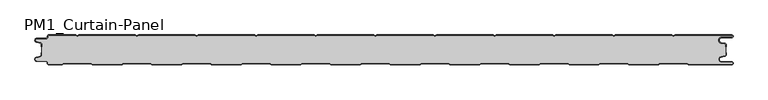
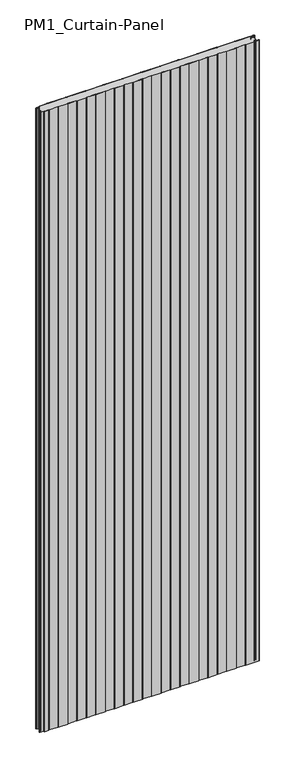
"""IFC4 building model written with IfcOpenShell, lengths in millimetres: plate geometry, PM1_Curtain-Panel : ACH_PM1_Stone-wool-Panel_50M."""

from ifc_helpers import new_model, si_unit, point, frame_2d, origin, origin_with_axes, place, context, project, spatial, polyline, circle_curve, trimmed, segment, composite_curve, outline, extrude, source, transform, mapped, element, save


def pm1_curtain_panel_b305cc81(model_context):
    return source(origin(), model_context, "Body", "SweptSolid", [
        extrude(outline(composite_curve([segment(trimmed(circle_curve(frame_2d((-577.0, -15.878557)), 2.0), [point((-575.0, -15.878557))], [point((-576.5500978, -13.9298169))], True, "CARTESIAN"), True, "CONTINUOUS"), segment(polyline([(-576.5500978, -13.9298169), (-582.7098239, -12.507732)]), True, "CONTINUOUS"), segment(trimmed(circle_curve(frame_2d((-581.9, -9.0)), 3.6), [point((-582.7098239, -12.507732))], [point((-581.9, -5.4))], False, "CARTESIAN"), True, "CONTINUOUS"), segment(polyline([(-581.9, -5.4), (-566.4, -5.4)]), True, "CONTINUOUS"), segment(trimmed(circle_curve(frame_2d((-566.4, -3.4)), 2.0), [point((-566.4, -5.4))], [point((-564.4, -3.4))], True, "CARTESIAN"), True, "CONTINUOUS"), segment(polyline([(-564.4, -3.4), (-564.4, -2.0)]), True, "CONTINUOUS"), segment(trimmed(circle_curve(frame_2d((-562.4, -2.0)), 2.0), [point((-564.4, -2.0))], [point((-562.4, 0.0))], False, "CARTESIAN"), True, "CONTINUOUS"), segment(polyline([(-562.4, 0.0), (-517.0999995, 0.0), (-514.4, -1.5588455), (-511.7000005, 0.0), (-417.0999995, 0.0), (-414.4, -1.5588455), (-411.7000005, 0.0), (-317.0999995, 0.0), (-314.4, -1.5588455), (-311.7000005, 0.0), (-217.0999995, 0.0), (-214.4, -1.5588455), (-211.7000005, 0.0), (-117.0999995, 0.0), (-114.4, -1.5588455), (-111.7000005, 0.0), (-17.0999995, 0.0), (-14.4, -1.5588455), (-11.7000005, 0.0), (82.9000005, 0.0), (85.6, -1.5588455), (88.2999995, 0.0), (182.9000005, 0.0), (185.6, -1.5588455), (188.2999995, 0.0), (282.9000005, 0.0), (285.6, -1.5588455), (288.2999995, 0.0), (382.9000005, 0.0), (385.6, -1.5588455), (388.2999995, 0.0), (482.9000005, 0.0), (485.6, -1.5588455), (488.2999995, 0.0), (583.1, 0.0)]), True, "CONTINUOUS"), segment(trimmed(circle_curve(frame_2d((583.1, -2.5)), 2.5), [point((583.1, 0.0))], [point((583.1, -5.0))], False, "CARTESIAN"), True, "CONTINUOUS"), segment(polyline([(583.1, -5.0), (566.1, -5.0)]), True, "CONTINUOUS"), segment(trimmed(circle_curve(frame_2d((566.1, -9.0)), 4.0), [point((566.1, -5.0))], [point((565.405407, -12.939231))], True, "CARTESIAN"), True, "CONTINUOUS"), segment(polyline([(565.405407, -12.939231), (571.8514855, -14.0758491)]), True, "CONTINUOUS"), segment(trimmed(circle_curve(frame_2d((571.4, -16.6363492)), 2.6), [point((571.8514855, -14.0758491))], [point((574.0, -16.6363492))], False, "CARTESIAN"), True, "CONTINUOUS"), segment(polyline([(574.0, -16.6363492), (574.0, -20.0), (573.2, -20.0), (573.2, -16.6363492)]), True, "CONTINUOUS"), segment(trimmed(circle_curve(frame_2d((571.4, -16.6363492)), 1.8), [point((573.2, -16.6363492))], [point((571.7125669, -14.8636953))], True, "CARTESIAN"), True, "CONTINUOUS"), segment(polyline([(571.7125669, -14.8636953), (565.2664884, -13.7270772)]), True, "CONTINUOUS"), segment(trimmed(circle_curve(frame_2d((566.1, -9.0)), 4.8), [point((565.2664884, -13.7270772))], [point((566.1, -4.2))], False, "CARTESIAN"), True, "CONTINUOUS"), segment(polyline([(566.1, -4.2), (583.1, -4.2)]), True, "CONTINUOUS"), segment(trimmed(circle_curve(frame_2d((583.1, -2.5)), 1.7), [point((583.1, -4.2))], [point((583.1, -0.8))], True, "CARTESIAN"), True, "CONTINUOUS"), segment(polyline([(583.1, -0.8), (488.5143588, -0.8), (485.6, -2.482606), (482.6856412, -0.8), (388.5143588, -0.8), (385.6, -2.482606), (382.6856412, -0.8), (288.5143588, -0.8), (285.6, -2.482606), (282.6856412, -0.8), (188.5143588, -0.8), (185.6, -2.482606), (182.6856412, -0.8), (88.5143588, -0.8), (85.6, -2.482606), (82.6856412, -0.8), (-11.4856412, -0.8), (-14.4, -2.482606), (-17.3143588, -0.8), (-111.4856412, -0.8), (-114.4, -2.482606), (-117.3143588, -0.8), (-211.4856412, -0.8), (-214.4, -2.482606), (-217.3143588, -0.8), (-311.4856412, -0.8), (-314.4, -2.482606), (-317.3143588, -0.8), (-411.4856412, -0.8), (-414.4, -2.482606), (-417.3143588, -0.8), (-511.4856412, -0.8), (-514.4, -2.482606), (-517.3143588, -0.8), (-562.4, -0.8)]), True, "CONTINUOUS"), segment(trimmed(circle_curve(frame_2d((-562.4, -2.0)), 1.2), [point((-562.4, -0.8))], [point((-563.6, -2.0))], True, "CARTESIAN"), True, "CONTINUOUS"), segment(polyline([(-563.6, -2.0), (-563.6, -3.4)]), True, "CONTINUOUS"), segment(trimmed(circle_curve(frame_2d((-566.4, -3.4)), 2.8), [point((-563.6, -3.4))], [point((-566.4, -6.2))], False, "CARTESIAN"), True, "CONTINUOUS"), segment(polyline([(-566.4, -6.2), (-581.9, -6.2)]), True, "CONTINUOUS"), segment(trimmed(circle_curve(frame_2d((-581.9, -9.0)), 2.8), [point((-581.9, -6.2))], [point((-582.529863, -11.7282362))], True, "CARTESIAN"), True, "CONTINUOUS"), segment(polyline([(-582.529863, -11.7282362), (-576.370137, -13.150321)]), True, "CONTINUOUS"), segment(trimmed(circle_curve(frame_2d((-577.0, -15.878557)), 2.8), [point((-576.370137, -13.150321))], [point((-574.2, -15.878557))], False, "CARTESIAN"), True, "CONTINUOUS"), segment(polyline([(-574.2, -15.878557), (-574.2, -20.0), (-575.0, -20.0), (-575.0, -15.878557)]), True, "CONTINUOUS")], self_intersect=False)), origin_with_axes(), (0.0, 0.0, 1.0), 3500.0),
        extrude(outline(composite_curve([segment(polyline([(-574.2, -34.121443), (-574.2, -15.8785573)]), True, "CONTINUOUS"), segment(trimmed(circle_curve(frame_2d((-577.0, -15.8785573)), 2.8), [point((-574.2, -15.8785573))], [point((-576.370137, -13.1503212))], True, "CARTESIAN"), True, "CONTINUOUS"), segment(polyline([(-576.370137, -13.1503212), (-582.5298631, -11.7282362)]), True, "CONTINUOUS"), segment(trimmed(circle_curve(frame_2d((-581.9, -9.0)), 2.8), [point((-582.5298631, -11.7282362))], [point((-581.9, -6.2))], False, "CARTESIAN"), True, "CONTINUOUS"), segment(polyline([(-581.9, -6.2), (-566.4000001, -6.2)]), True, "CONTINUOUS"), segment(trimmed(circle_curve(frame_2d((-566.4000001, -3.4)), 2.8), [point((-566.4000001, -6.2))], [point((-563.6000001, -3.4))], True, "CARTESIAN"), True, "CONTINUOUS"), segment(polyline([(-563.6000001, -3.4), (-563.6000001, -2.0)]), True, "CONTINUOUS"), segment(trimmed(circle_curve(frame_2d((-562.4000001, -2.0)), 1.2), [point((-563.6000001, -2.0))], [point((-562.4000001, -0.8))], False, "CARTESIAN"), True, "CONTINUOUS"), segment(polyline([(-562.4000001, -0.8), (-517.3143589, -0.8), (-514.4000001, -2.482606), (-511.4856412, -0.8), (-417.3143589, -0.8), (-414.4000001, -2.482606), (-411.4856412, -0.8), (-317.3143589, -0.8), (-314.4000001, -2.482606), (-311.4856412, -0.8), (-217.3143589, -0.8), (-214.4000001, -2.482606), (-211.4856412, -0.8), (-117.3143589, -0.8), (-114.4000001, -2.482606), (-111.4856412, -0.8), (-17.3143589, -0.8), (-14.4000001, -2.482606), (-11.4856412, -0.8), (82.6856411, -0.8), (85.5999999, -2.482606), (88.5143588, -0.8), (182.6856411, -0.8), (185.5999999, -2.482606), (188.5143588, -0.8), (282.6856411, -0.8), (285.5999999, -2.482606), (288.5143588, -0.8), (382.6856411, -0.8), (385.5999999, -2.482606), (388.5143588, -0.8), (482.6856411, -0.8), (485.6, -2.482606), (488.5143588, -0.8), (583.1, -0.8)]), True, "CONTINUOUS"), segment(trimmed(circle_curve(frame_2d((583.1, -2.5)), 1.7), [point((583.1, -0.8))], [point((583.1, -4.2))], False, "CARTESIAN"), True, "CONTINUOUS"), segment(polyline([(583.1, -4.2), (566.1, -4.2)]), True, "CONTINUOUS"), segment(trimmed(circle_curve(frame_2d((566.1, -9.0)), 4.8), [point((566.1, -4.2))], [point((565.2664883, -13.7270771))], True, "CARTESIAN"), True, "CONTINUOUS"), segment(polyline([(565.2664883, -13.7270771), (571.7125668, -14.8636953)]), True, "CONTINUOUS"), segment(trimmed(circle_curve(frame_2d((571.4, -16.6363492)), 1.8), [point((571.7125668, -14.8636953))], [point((573.2, -16.6363492))], False, "CARTESIAN"), True, "CONTINUOUS"), segment(polyline([(573.2, -16.6363492), (573.2, -33.363652)]), True, "CONTINUOUS"), segment(trimmed(circle_curve(frame_2d((571.4, -33.363652)), 1.8), [point((573.2, -33.363652))], [point((571.7125666, -35.136306))], False, "CARTESIAN"), True, "CONTINUOUS"), segment(polyline([(571.7125666, -35.136306), (565.266489, -36.2729231)]), True, "CONTINUOUS"), segment(trimmed(circle_curve(frame_2d((566.1, -41.0000002)), 4.7999999), [point((565.266489, -36.2729231))], [point((566.1, -45.8000001))], True, "CARTESIAN"), True, "CONTINUOUS"), segment(polyline([(566.1, -45.8000001), (583.1, -45.8000001)]), True, "CONTINUOUS"), segment(trimmed(circle_curve(frame_2d((583.1, -47.5)), 1.7), [point((583.1, -45.8000001))], [point((583.1, -49.2))], False, "CARTESIAN"), True, "CONTINUOUS"), segment(polyline([(583.1, -49.2), (510.8105122, -49.2), (508.2124346, -47.7), (462.9837184, -47.7), (460.3856408, -49.2), (410.8105122, -49.2), (408.2124346, -47.7), (362.9837184, -47.7), (360.3856408, -49.2), (310.8105122, -49.2), (308.2124346, -47.7), (262.9837184, -47.7), (260.3856408, -49.2), (210.8105122, -49.2), (208.2124346, -47.7), (162.9837184, -47.7), (160.3856408, -49.2), (110.8105122, -49.2), (108.2124346, -47.7), (62.9837184, -47.7), (60.3856408, -49.2), (10.8105122, -49.2), (8.2124346, -47.7), (-37.0162816, -47.7), (-39.6143592, -49.2), (-89.1894878, -49.2), (-91.7875654, -47.7), (-137.0162816, -47.7), (-139.6143592, -49.2), (-189.1894878, -49.2), (-191.7875654, -47.7), (-237.0162816, -47.7), (-239.6143592, -49.2), (-289.1894878, -49.2), (-291.7875654, -47.7), (-337.0162816, -47.7), (-339.6143592, -49.2), (-389.1894878, -49.2), (-391.7875654, -47.7), (-437.0162816, -47.7), (-439.6143592, -49.2), (-489.1894878, -49.2), (-491.7875654, -47.7), (-537.0162816, -47.7), (-539.6143592, -49.2), (-562.4, -49.2)]), True, "CONTINUOUS"), segment(trimmed(circle_curve(frame_2d((-562.4, -48.0)), 1.2), [point((-562.4, -49.2))], [point((-563.6, -48.0))], False, "CARTESIAN"), True, "CONTINUOUS"), segment(polyline([(-563.6, -48.0), (-563.6, -46.5999998)]), True, "CONTINUOUS"), segment(trimmed(circle_curve(frame_2d((-566.4, -46.5999998)), 2.8), [point((-563.6, -46.5999998))], [point((-566.4, -43.7999998))], True, "CARTESIAN"), True, "CONTINUOUS"), segment(polyline([(-566.4, -43.7999998), (-581.9, -43.7999998)]), True, "CONTINUOUS"), segment(trimmed(circle_curve(frame_2d((-581.9, -41.0)), 2.7999998), [point((-581.9, -43.7999998))], [point((-582.529863, -38.271764))], False, "CARTESIAN"), True, "CONTINUOUS"), segment(polyline([(-582.529863, -38.271764), (-576.370137, -36.8496792)]), True, "CONTINUOUS"), segment(trimmed(circle_curve(frame_2d((-577.0, -34.121443)), 2.8), [point((-576.370137, -36.8496792))], [point((-574.2, -34.121443))], True, "CARTESIAN"), True, "CONTINUOUS")], self_intersect=False)), origin_with_axes(), (0.0, 0.0, 1.0), 3500.0),
        extrude(outline(composite_curve([segment(trimmed(circle_curve(frame_2d((-562.4, -48.0)), 2.0), [point((-562.4, -50.0))], [point((-564.4, -48.0))], False, "CARTESIAN"), True, "CONTINUOUS"), segment(polyline([(-564.4, -48.0), (-564.4, -46.6)]), True, "CONTINUOUS"), segment(trimmed(circle_curve(frame_2d((-566.4, -46.6)), 2.0), [point((-564.4, -46.6))], [point((-566.4, -44.6))], True, "CARTESIAN"), True, "CONTINUOUS"), segment(polyline([(-566.4, -44.6), (-581.9, -44.6)]), True, "CONTINUOUS"), segment(trimmed(circle_curve(frame_2d((-581.9, -41.0)), 3.6), [point((-581.9, -44.6))], [point((-582.7098239, -37.4922678))], False, "CARTESIAN"), True, "CONTINUOUS"), segment(polyline([(-582.7098239, -37.4922678), (-576.5500979, -36.070183)]), True, "CONTINUOUS"), segment(trimmed(circle_curve(frame_2d((-577.0, -34.121443)), 2.0), [point((-576.5500979, -36.070183))], [point((-575.0, -34.121443))], True, "CARTESIAN"), True, "CONTINUOUS"), segment(polyline([(-575.0, -34.121443), (-575.0, -30.0), (-574.2, -30.0), (-574.2, -34.121443)]), True, "CONTINUOUS"), segment(trimmed(circle_curve(frame_2d((-577.0, -34.121443)), 2.8), [point((-574.2, -34.121443))], [point((-576.370137, -36.8496792))], False, "CARTESIAN"), True, "CONTINUOUS"), segment(polyline([(-576.370137, -36.8496792), (-582.529863, -38.271764)]), True, "CONTINUOUS"), segment(trimmed(circle_curve(frame_2d((-581.9, -41.0)), 2.8), [point((-582.529863, -38.271764))], [point((-581.9, -43.8))], True, "CARTESIAN"), True, "CONTINUOUS"), segment(polyline([(-581.9, -43.8), (-566.4, -43.8)]), True, "CONTINUOUS"), segment(trimmed(circle_curve(frame_2d((-566.4, -46.6)), 2.8), [point((-566.4, -43.8))], [point((-563.6, -46.6))], False, "CARTESIAN"), True, "CONTINUOUS"), segment(polyline([(-563.6, -46.6), (-563.6, -48.0)]), True, "CONTINUOUS"), segment(trimmed(circle_curve(frame_2d((-562.4, -48.0)), 1.2), [point((-563.6, -48.0))], [point((-562.4, -49.2))], True, "CARTESIAN"), True, "CONTINUOUS"), segment(polyline([(-562.4, -49.2), (-539.6143592, -49.2), (-537.0162816, -47.7), (-491.7875654, -47.7), (-489.1894878, -49.2), (-439.6143592, -49.2), (-437.0162816, -47.7), (-391.7875654, -47.7), (-389.1894878, -49.2), (-339.6143592, -49.2), (-337.0162816, -47.7), (-291.7875654, -47.7), (-289.1894878, -49.2), (-239.6143592, -49.2), (-237.0162816, -47.7), (-191.7875654, -47.7), (-189.1894878, -49.2), (-139.6143592, -49.2), (-137.0162816, -47.7), (-91.7875654, -47.7), (-89.1894878, -49.2), (-39.6143592, -49.2), (-37.0162816, -47.7), (8.2124346, -47.7), (10.8105122, -49.2), (60.3856408, -49.2), (62.9837184, -47.7), (108.2124346, -47.7), (110.8105122, -49.2), (160.3856408, -49.2), (162.9837184, -47.7), (208.2124346, -47.7), (210.8105122, -49.2), (260.3856408, -49.2), (262.9837184, -47.7), (308.2124346, -47.7), (310.8105122, -49.2), (360.3856408, -49.2), (362.9837184, -47.7), (408.2124346, -47.7), (410.8105122, -49.2), (460.3856408, -49.2), (462.9837184, -47.7), (508.2124346, -47.7), (510.8105122, -49.2), (583.1, -49.2)]), True, "CONTINUOUS"), segment(trimmed(circle_curve(frame_2d((583.1, -47.5)), 1.7), [point((583.1, -49.2))], [point((583.1, -45.8))], True, "CARTESIAN"), True, "CONTINUOUS"), segment(polyline([(583.1, -45.8), (566.1, -45.8)]), True, "CONTINUOUS"), segment(trimmed(circle_curve(frame_2d((566.1, -41.0)), 4.8), [point((566.1, -45.8))], [point((565.266489, -36.2729227))], False, "CARTESIAN"), True, "CONTINUOUS"), segment(polyline([(565.266489, -36.2729227), (571.7125666, -35.1363058)]), True, "CONTINUOUS"), segment(trimmed(circle_curve(frame_2d((571.4, -33.363652)), 1.8), [point((571.7125666, -35.1363058))], [point((573.2, -33.363652))], True, "CARTESIAN"), True, "CONTINUOUS"), segment(polyline([(573.2, -33.363652), (573.2, -30.0), (574.0, -30.0), (574.0, -33.363652)]), True, "CONTINUOUS"), segment(trimmed(circle_curve(frame_2d((571.4, -33.363652)), 2.6), [point((574.0, -33.363652))], [point((571.8514851, -35.9241522))], False, "CARTESIAN"), True, "CONTINUOUS"), segment(polyline([(571.8514851, -35.9241522), (565.4054075, -37.0607691)]), True, "CONTINUOUS"), segment(trimmed(circle_curve(frame_2d((566.1, -41.0)), 4.0), [point((565.4054075, -37.0607691))], [point((566.1, -45.0))], True, "CARTESIAN"), True, "CONTINUOUS"), segment(polyline([(566.1, -45.0), (583.1, -45.0)]), True, "CONTINUOUS"), segment(trimmed(circle_curve(frame_2d((583.1, -47.5)), 2.5), [point((583.1, -45.0))], [point((583.1, -50.0))], False, "CARTESIAN"), True, "CONTINUOUS"), segment(polyline([(583.1, -50.0), (510.5961529, -50.0), (507.9980753, -48.5), (463.1980777, -48.5), (460.6000001, -50.0), (410.5961529, -50.0), (407.9980753, -48.5), (363.1980777, -48.5), (360.6000001, -50.0), (310.5961529, -50.0), (307.9980753, -48.5), (263.1980777, -48.5), (260.6000001, -50.0), (210.5961529, -50.0), (207.9980753, -48.5), (163.1980777, -48.5), (160.6000001, -50.0), (110.5961529, -50.0), (107.9980753, -48.5), (63.1980777, -48.5), (60.6000001, -50.0), (10.5961529, -50.0), (7.9980753, -48.5), (-36.8019223, -48.5), (-39.3999999, -50.0), (-89.4038471, -50.0), (-92.0019247, -48.5), (-136.8019223, -48.5), (-139.3999999, -50.0), (-189.4038471, -50.0), (-192.0019247, -48.5), (-236.8019223, -48.5), (-239.3999999, -50.0), (-289.4038471, -50.0), (-292.0019247, -48.5), (-336.8019223, -48.5), (-339.3999999, -50.0), (-389.4038471, -50.0), (-392.0019247, -48.5), (-436.8019223, -48.5), (-439.3999999, -50.0), (-489.4038471, -50.0), (-492.0019247, -48.5), (-536.8019223, -48.5), (-539.3999999, -50.0), (-562.4, -50.0)]), True, "CONTINUOUS")], self_intersect=False)), origin_with_axes(), (0.0, 0.0, 1.0), 3500.0),
    ])


if __name__ == "__main__":
    model = new_model("IFC4")
    model_context = context("Model", 3, world=origin())
    ifc_project = project(units=[si_unit("LENGTHUNIT", "METRE", prefix="MILLI")], contexts=[model_context])
    site = spatial("IfcSite", under=ifc_project)
    building = spatial("IfcBuilding", under=site)
    placement = place(None, origin())
    pm1_curtain_panel_shape = pm1_curtain_panel_b305cc81(model_context)
    element("IfcPlate", 1, ObjectType="PM1_Curtain-Panel : ACH_PM1_Stone-wool-Panel_50M", at=placement, inside=building, context=model_context, shape_type="MappedRepresentation", body=[
        mapped(pm1_curtain_panel_shape, transform((0.0, 0.0, 0.0), x_axis=(1.0, 0.0, 0.0), y_axis=(0.0, 1.0, 0.0), z_axis=(0.0, 0.0, 1.0))),
    ])
    save(model, "model.ifc")
